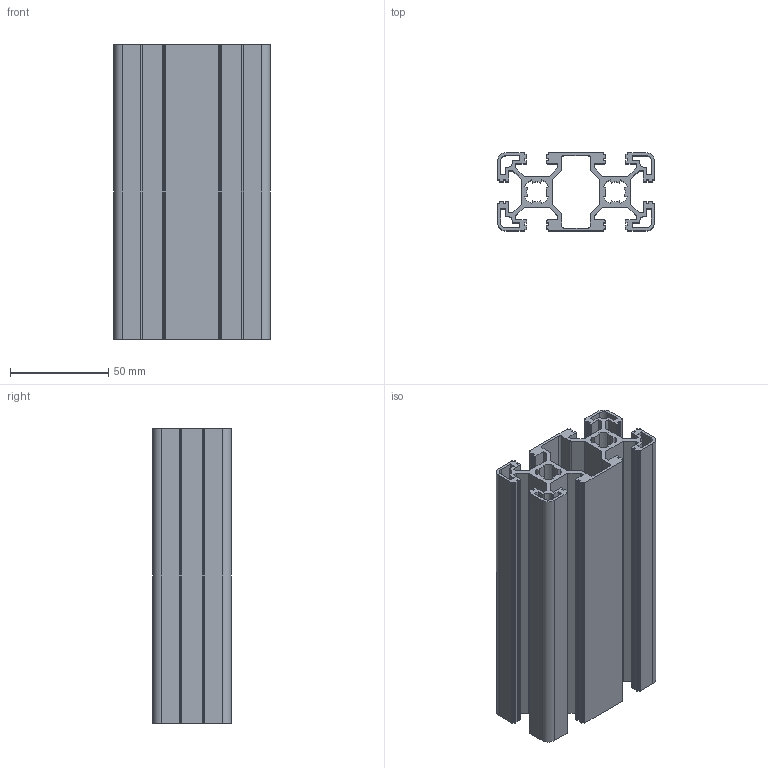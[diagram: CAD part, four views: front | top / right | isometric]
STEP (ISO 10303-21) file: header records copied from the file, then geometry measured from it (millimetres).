
FILE_DESCRIPTION((''),'2;1');
FILE_NAME('E:\catalogue and flyer\Profile catalogue 2015\profile-step file,31MAr16\PS4080L-10.stp','2016-03-31T14:14:03',('h029'),(''),'Autodesk Inventor 11','Autodesk Inventor 11','');
FILE_SCHEMA(('AUTOMOTIVE_DESIGN { 1 0 10303 214 1 1 1 1 }'));
Length unit declared in the file: millimetre
Products named in the file (1): PS4080L-10
Bounding box: 80 x 40 x 150 mm (x, y, z)
Volume: 140109.1 mm3; surface area: 130068.5 mm2
Topology: 1 solids, 1 shells, 294 faces, 876 edges, 584 vertices
Faces by surface type: plane 190, cylinder 104
Entity records: 9919 total; most frequent: CARTESIAN_POINT 1755, ORIENTED_EDGE 1752, DIRECTION 1674, EDGE_CURVE 876, VECTOR 668, LINE 668, VERTEX_POINT 584, AXIS2_PLACEMENT_3D 503
